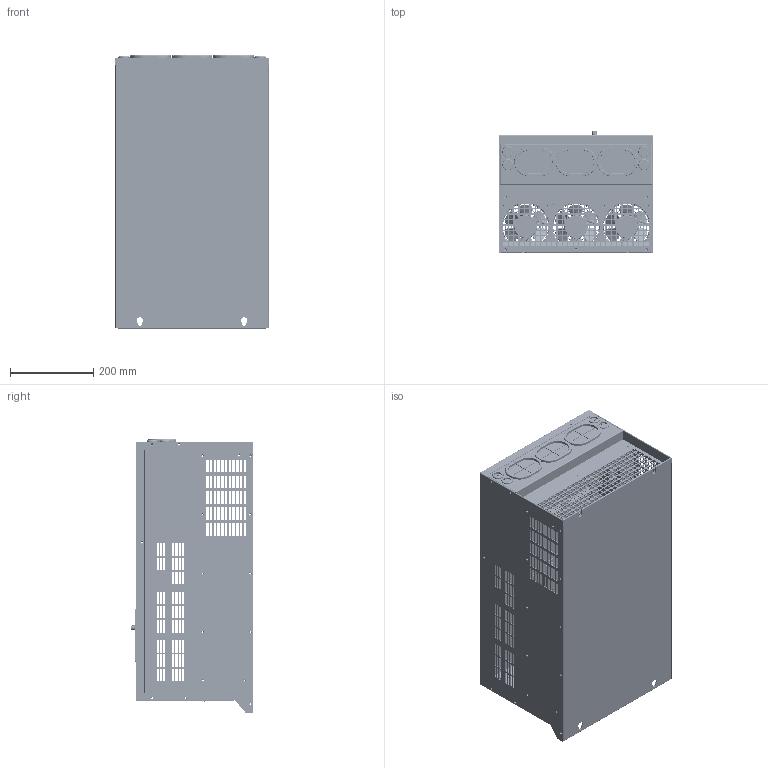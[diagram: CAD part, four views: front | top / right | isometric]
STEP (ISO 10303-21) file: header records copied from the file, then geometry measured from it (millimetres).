
FILE_DESCRIPTION((''),'2;1');
FILE_NAME('ESQ-760-4T-75-110KW','2020-07-13T',('ranqinwen'),(''),'CREO PARAMETRIC BY PTC INC, 2016260','CREO PARAMETRIC BY PTC INC, 2016260','');
FILE_SCHEMA(('AUTOMOTIVE_DESIGN { 1 0 10303 214 1 1 1 1 }'));
Products named in the file (1): ESQ-760-4T-75-110KW
Bounding box: 370 x 293.5 x 655.75 mm (x, y, z)
Surface area: 3171201.1 mm2 (no closed solid volume)
Topology: 0 solids, 265 shells, 9870 faces, 26043 edges, 16533 vertices
Faces by surface type: plane 5895, cylinder 2602, torus 530, bspline 415, extrusion 209, cone 165, sphere 50, revolution 4
Entity records: 478659 total; most frequent: CARTESIAN_POINT 81719, ORIENTED_EDGE 51966, DIRECTION 49893, PRESENTATION_STYLE_ASSIGNMENT 36330, STYLED_ITEM 26460, CURVE_STYLE 26196, EDGE_CURVE 25983, VECTOR 17353
